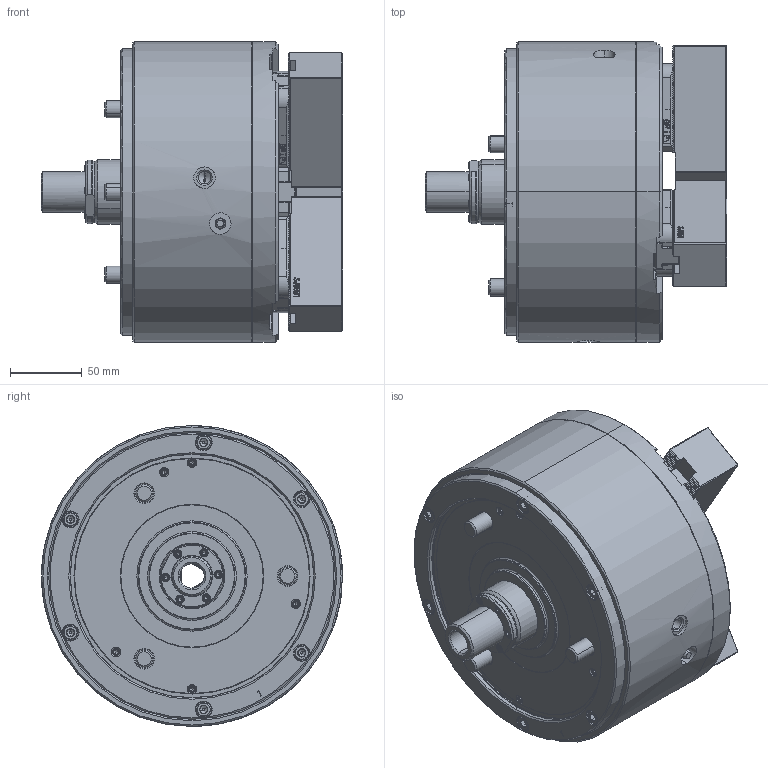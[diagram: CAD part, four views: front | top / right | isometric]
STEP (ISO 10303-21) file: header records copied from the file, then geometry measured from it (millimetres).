
FILE_DESCRIPTION (( 'STEP AP214' ), '1' );
FILE_NAME ('DL208_UC.STEP', '2022-09-07T07:27:06', ( '' ), ( '' ), 'SwSTEP 2.0', 'SolidWorks 2020', '' );
FILE_SCHEMA (( 'AUTOMOTIVE_DESIGN' ));
Length unit declared in the file: millimetre
Products named in the file (5): 0030112030; 結合DL208_UC^DL208; DL208_UC; 61P451466; 61P304291
Assembly tree (13 placements, depth 2):
  DL208_UC
    61P304291  x3
    61P451466  x3
    0030112030  x6
    結合DL208_UC^DL208
Bounding box: 210.5 x 210 x 210 mm (x, y, z)
Volume: 3996749.4 mm3; surface area: 329160 mm2
Topology: 13 solids, 50 shells, 7376 faces, 20428 edges, 13368 vertices
Faces by surface type: plane 3961, cylinder 1588, bspline 1166, cone 627, torus 34
Entity records: 218095 total; most frequent: CARTESIAN_POINT 81935, ORIENTED_EDGE 31672, DIRECTION 22850, EDGE_CURVE 15836, VERTEX_POINT 10425, VECTOR 10292, LINE 10292, AXIS2_PLACEMENT_3D 6279
